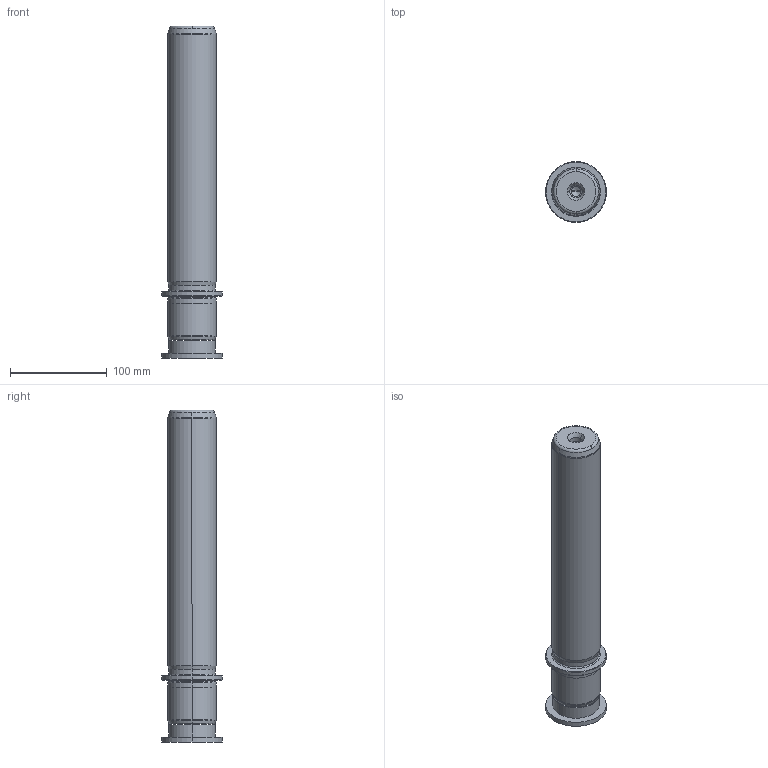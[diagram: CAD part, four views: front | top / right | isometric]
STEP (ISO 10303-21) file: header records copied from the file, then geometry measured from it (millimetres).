
FILE_DESCRIPTION((''),'2;1');
FILE_NAME('P22_050_280.stp','2009-11-02T10:51:35',(''),(''),'Mechanical Desktop 2009','Mechanical Desktop 2009',', , ');
FILE_SCHEMA(('CONFIG_CONTROL_DESIGN'));
Length unit declared in the file: millimetre
Products named in the file (2): Product; blmdl1
Assembly tree (1 placements, depth 2):
  Product
    blmdl1
Bounding box: 63 x 63 x 344 mm (x, y, z)
Volume: 673542.4 mm3; surface area: 71698.9 mm2
Topology: 3 solids, 3 shells, 99 faces, 237 edges, 149 vertices
Faces by surface type: cylinder 32, cone 28, plane 19, torus 10, bspline 10
Entity records: 3419 total; most frequent: CARTESIAN_POINT 923, DIRECTION 570, ORIENTED_EDGE 466, AXIS2_PLACEMENT_3D 246, EDGE_CURVE 233, CIRCLE 155, VERTEX_POINT 149, EDGE_LOOP 110
